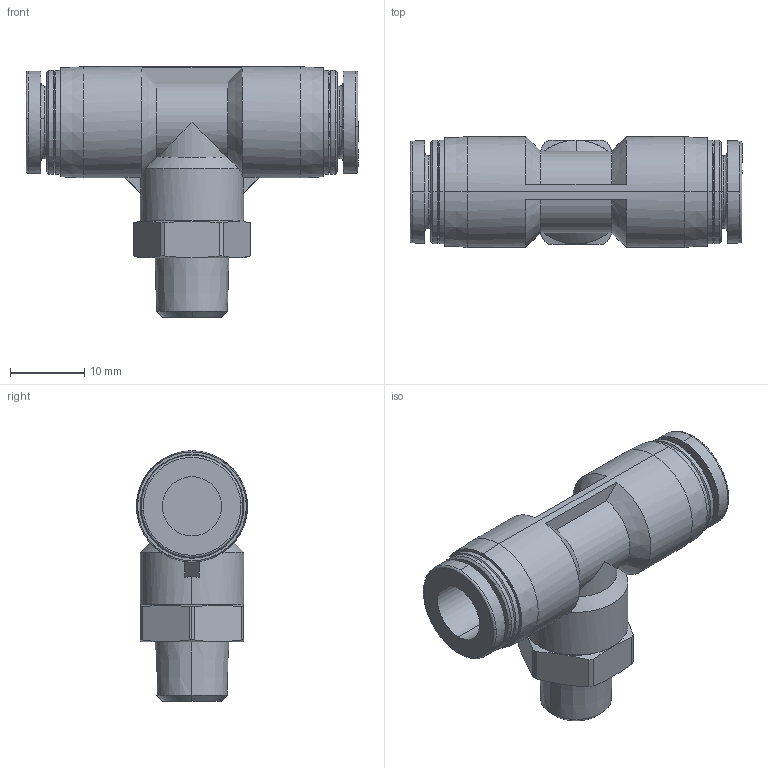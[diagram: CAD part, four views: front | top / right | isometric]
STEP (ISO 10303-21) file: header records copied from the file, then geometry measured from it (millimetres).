
FILE_DESCRIPTION (( 'STEP AP214' ), '1' );
FILE_NAME ('KQ2T08-01AS.STEP', '2023-03-06T09:36:00', ( 'Windows User' ), ( 'P R C' ), 'SwSTEP 2.0', 'SolidWorks 2019', '' );
FILE_SCHEMA (( 'AUTOMOTIVE_DESIGN' ));
Length unit declared in the file: millimetre
Products named in the file (1): KQ2T08-01AS
Bounding box: 44.8 x 15 x 33.8 mm (x, y, z)
Volume: 7472.3 mm3; surface area: 4474.9 mm2
Topology: 1 solids, 1 shells, 112 faces, 294 edges, 194 vertices
Faces by surface type: cone 42, cylinder 35, plane 27, bspline 8
Entity records: 4056 total; most frequent: CARTESIAN_POINT 1293, ORIENTED_EDGE 588, DIRECTION 580, EDGE_CURVE 294, AXIS2_PLACEMENT_3D 245, VERTEX_POINT 194, CIRCLE 140, EDGE_LOOP 122
